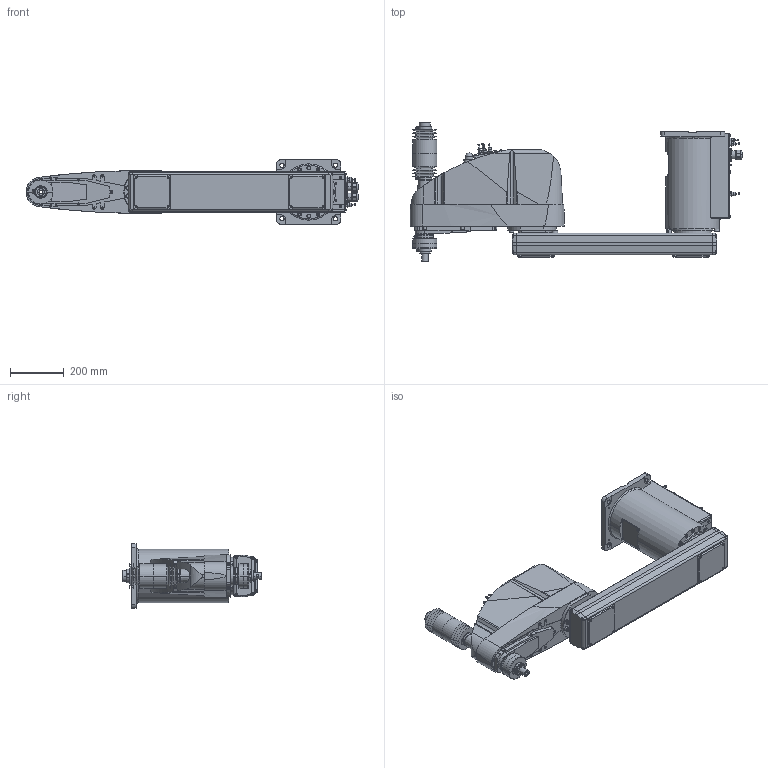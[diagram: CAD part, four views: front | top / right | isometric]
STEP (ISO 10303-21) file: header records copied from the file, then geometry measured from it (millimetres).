
FILE_DESCRIPTION( ( '' ), '1' );
FILE_NAME( '//expscmdclustefs.cadenas.external/client_exchange/iodir/jobs/output/wkb51492354_no0/STEP/G20_A01DR_2_14b.stp', '2012-11-22T09:27:09', ( '' ), ( '' ), ' ', ' ', ' ' );
FILE_SCHEMA( ( 'automotive_design' ) );
Length unit declared in the file: millimetre
Products named in the file (8): 1; 2; 3; 4; 5; 6; 7; 8
Bounding box: 1239.5 x 518.5 x 240 mm (x, y, z)
Volume: 43499547.1 mm3; surface area: 1678770.4 mm2
Topology: 8 solids, 9 shells, 2075 faces, 4994 edges, 3204 vertices
Faces by surface type: plane 1075, cylinder 682, cone 290, torus 27, sphere 1
Entity records: 119718 total; most frequent: CARTESIAN_POINT 12374, DIRECTION 10726, STYLED_ITEM 10265, PRESENTATION_STYLE_ASSIGNMENT 10265, COLOUR_RGB 10265, ORIENTED_EDGE 9956, EDGE_CURVE 4978, CURVE_STYLE 4978
